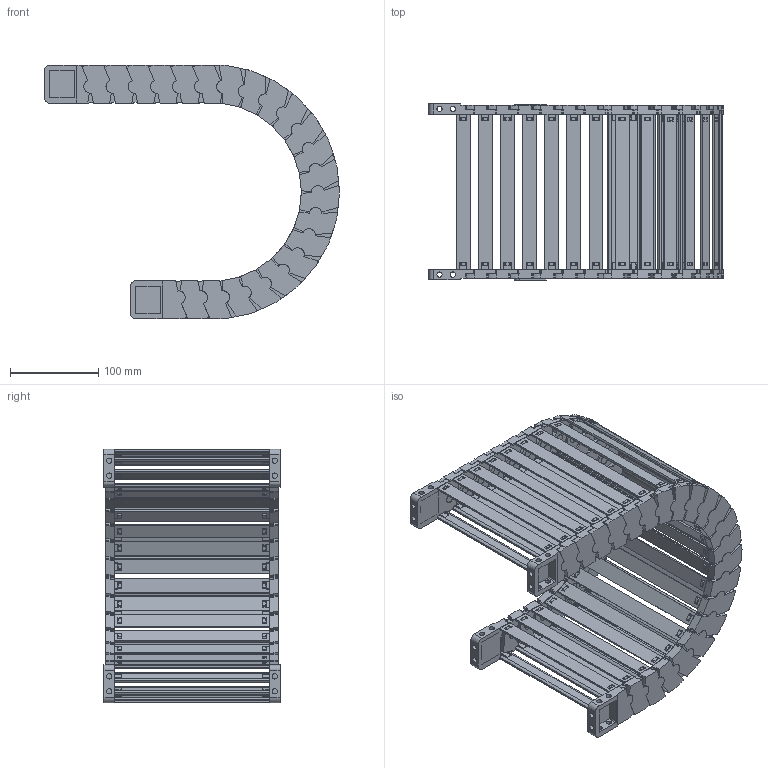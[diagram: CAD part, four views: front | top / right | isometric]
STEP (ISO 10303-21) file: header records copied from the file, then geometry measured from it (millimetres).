
FILE_DESCRIPTION((''),'2;1');
FILE_NAME('JY-35X175-R125_ASM','2026-05-04T14:28:19',('admin'),(''),'CREO PARAMETRIC BY PTC INC, 2021023','CREO PARAMETRIC BY PTC INC, 2021023','');
FILE_SCHEMA(('CONFIG_CONTROL_DESIGN'));
Length unit declared in the file: millimetre
Products named in the file (11): 35XL-L; 25-35XL-YP; 35XL-R; ASM0001_ASM; 35-LTT-A-L; 35-LTT-A-R; 35XL-LTT-A_ASM; 35-LTT-B-L; 35-LTT-B-R; 35XL-LTT-B_ASM; JY-35X175-R125_ASM
Assembly tree (36 placements, depth 3):
  JY-35X175-R125_ASM
    ASM0001_ASM  x22
      35XL-L
      25-35XL-YP
      35XL-R
    35XL-LTT-A_ASM
      35-LTT-A-L
      25-35XL-YP  x2
      35-LTT-A-R
    35XL-LTT-B_ASM
      35-LTT-B-L
      25-35XL-YP  x2
      35-LTT-B-R
Bounding box: 334.89 x 200.1 x 288.09 mm (x, y, z)
Volume: 933458.3 mm3; surface area: 595563.3 mm2
Topology: 96 solids, 96 shells, 4984 faces, 14582 edges, 9748 vertices
Faces by surface type: plane 3792, cylinder 1188, bspline 4
Entity records: 17184 total; most frequent: CARTESIAN_POINT 3195, ORIENTED_EDGE 2876, DIRECTION 2870, EDGE_CURVE 1438, VECTOR 1056, LINE 1056, VERTEX_POINT 964, AXIS2_PLACEMENT_3D 907
